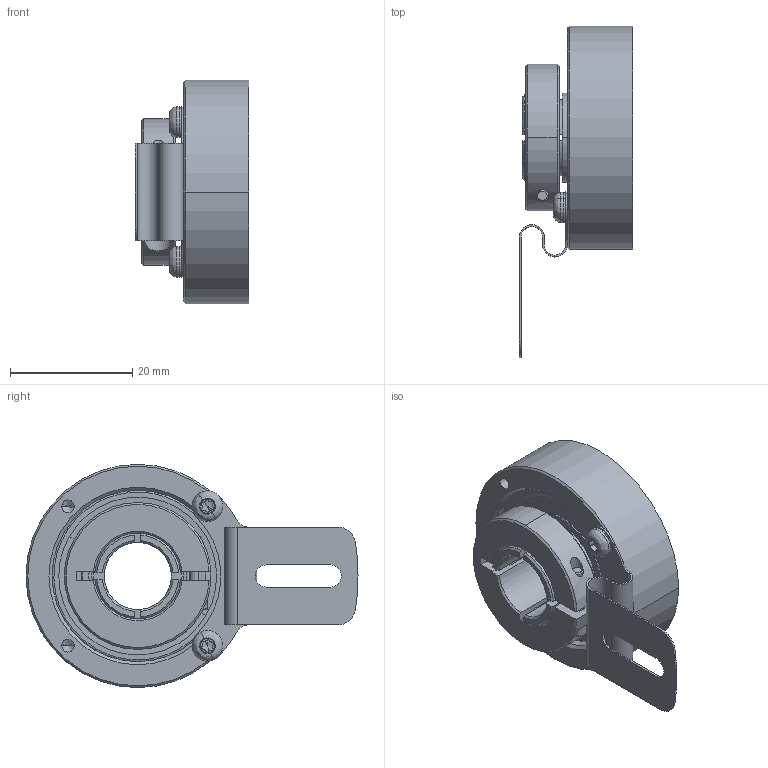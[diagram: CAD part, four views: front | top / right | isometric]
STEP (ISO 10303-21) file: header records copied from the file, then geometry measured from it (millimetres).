
FILE_DESCRIPTION (( 'STEP AP214' ), '1' );
FILE_NAME ('drawing-ucd-vba0-q3a-n.STEP', '2017-01-19T16:22:27', ( '' ), ( '' ), 'SwSTEP 2.0', 'SolidWorks 2015', '' );
FILE_SCHEMA (( 'AUTOMOTIVE_DESIGN' ));
Length unit declared in the file: millimetre
Products named in the file (1): drawing-ucd-vba0-q3a-n
Bounding box: 18.5 x 54.25 x 36.5 mm (x, y, z)
Volume: 9570.3 mm3; surface area: 13053.8 mm2
Topology: 24 solids, 24 shells, 422 faces, 1028 edges, 606 vertices
Faces by surface type: cylinder 136, cone 104, plane 98, bspline 80, torus 4
Entity records: 18990 total; most frequent: CARTESIAN_POINT 4664, DIRECTION 2031, ORIENTED_EDGE 1924, EDGE_CURVE 962, AXIS2_PLACEMENT_3D 855, VERTEX_POINT 606, CIRCLE 512, EDGE_LOOP 468
